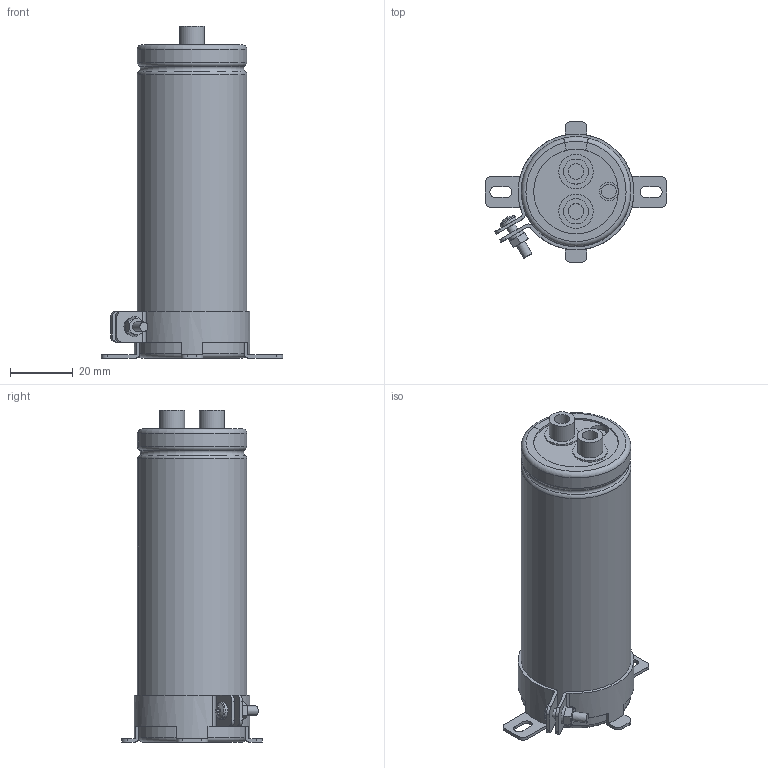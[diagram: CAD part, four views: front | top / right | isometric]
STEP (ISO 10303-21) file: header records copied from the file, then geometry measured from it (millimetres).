
FILE_DESCRIPTION(/* description */ (''),/* implementation_level */ '2;1');
FILE_NAME(/* name */ '35x100_Screw.stp',/* time_stamp */ '2017-09-14T14:17:24+09:00',/* author */ (''),/* organization */ (''),/* preprocessor_version */ 'ST-DEVELOPER v16',/* originating_system */ 'SIEMENS PLM Software NX 11.0',/* authorisation */ '');
FILE_SCHEMA (('AUTOMOTIVE_DESIGN { 1 0 10303 214 3 1 1 1 }'));
Length unit declared in the file: millimetre
Products named in the file (1): 35x100_Screw
Bounding box: 58 x 45 x 106 mm (x, y, z)
Volume: 97207.9 mm3; surface area: 40431 mm2
Topology: 8 solids, 8 shells, 171 faces, 430 edges, 285 vertices
Faces by surface type: plane 86, cylinder 53, torus 30, sphere 1, cone 1
Full cylindrical faces by diameter (mm): 3 x5, 4 x1, 4.7 x1, 5 x2, 5.5 x2, 6 x2, 8 x2, 11 x2, 33.8 x2
Entity records: 5409 total; most frequent: CARTESIAN_POINT 1122, DIRECTION 928, ORIENTED_EDGE 796, EDGE_CURVE 398, AXIS2_PLACEMENT_3D 372, VERTEX_POINT 280, EDGE_LOOP 220, CIRCLE 200
